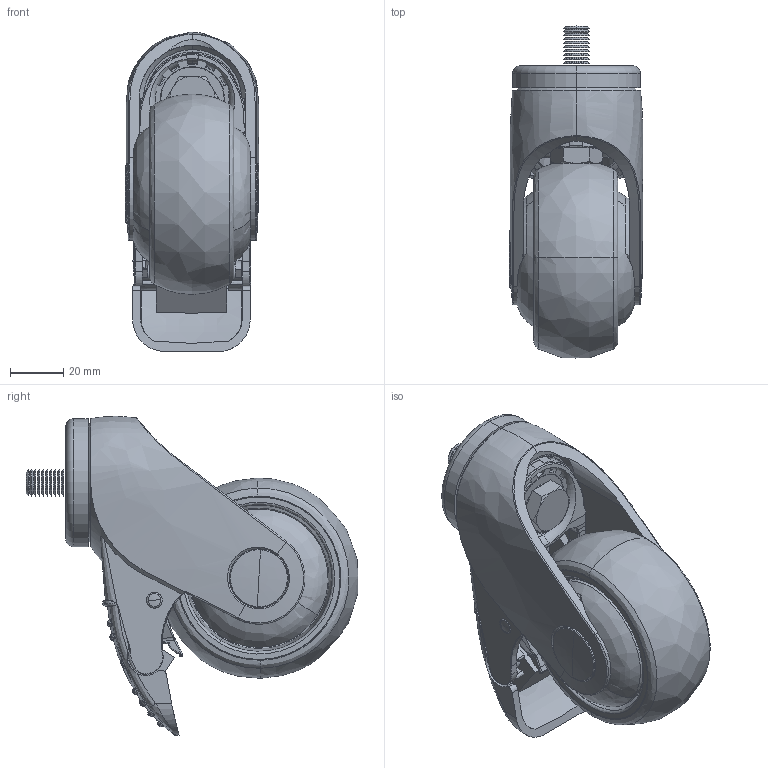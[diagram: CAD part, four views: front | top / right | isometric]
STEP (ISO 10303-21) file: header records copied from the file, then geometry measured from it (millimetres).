
FILE_DESCRIPTION (( 'STEP AP203' ), '1' );
FILE_NAME ('301089_STEP.STEP', '2011-06-10T12:16:18', ( '' ), ( '' ), 'SwSTEP 2.0', 'SolidWorks 2011', '' );
FILE_SCHEMA (( 'CONFIG_CONTROL_DESIGN' ));
Products named in the file (1): 301089_STEP
Bounding box: 50.09 x 124.24 x 119.55 mm (x, y, z)
Surface area: 68327.9 mm2 (no closed solid volume)
Topology: 0 solids, 31 shells, 708 faces, 2262 edges, 1548 vertices
Faces by surface type: bspline 277, cylinder 189, plane 113, cone 69, torus 60
Entity records: 55332 total; most frequent: CARTESIAN_POINT 38487, ORIENTED_EDGE 3704, DIRECTION 2646, EDGE_CURVE 2256, VERTEX_POINT 1548, AXIS2_PLACEMENT_3D 1040, B_SPLINE_CURVE_WITH_KNOTS 989, EDGE_LOOP 776
